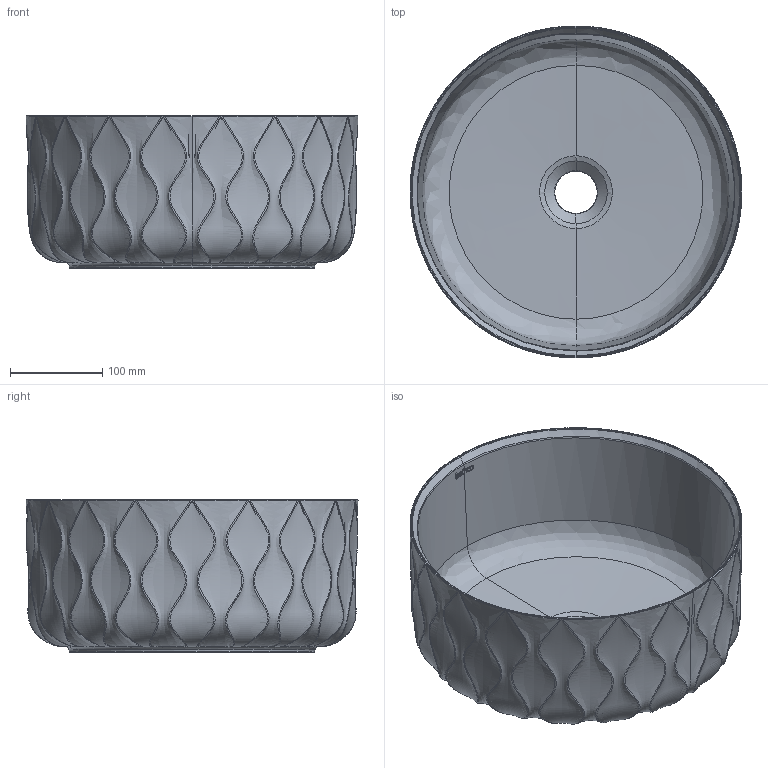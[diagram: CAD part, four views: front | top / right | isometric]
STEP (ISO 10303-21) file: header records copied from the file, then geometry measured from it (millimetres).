
FILE_DESCRIPTION(/* description */ (''),/* implementation_level */ '2;1');
FILE_NAME(/* name */ '4170_S~1',/* time_stamp */ '2023-11-13T10:59:57+01:00',/* author */ (''),/* organization */ (''),/* preprocessor_version */ 'ST-DEVELOPER v16.5',/* originating_system */ '',/* authorisation */ '');
FILE_SCHEMA (('CONFIG_CONTROL_DESIGN'));
Length unit declared in the file: millimetre
Products named in the file (1): Document
Bounding box: 359.64 x 359.64 x 165 mm (x, y, z)
Volume: 2388914 mm3; surface area: 498321.9 mm2
Topology: 7 solids, 7 shells, 190 faces, 474 edges, 278 vertices
Faces by surface type: bspline 182, plane 6, cylinder 2
Entity records: 140090 total; most frequent: CARTESIAN_POINT 137415, ORIENTED_EDGE 912, EDGE_CURVE 456, VERTEX_POINT 278, B_SPLINE_CURVE_WITH_KNOTS 209, EDGE_LOOP 196, ADVANCED_FACE 190, FACE_OUTER_BOUND 190
